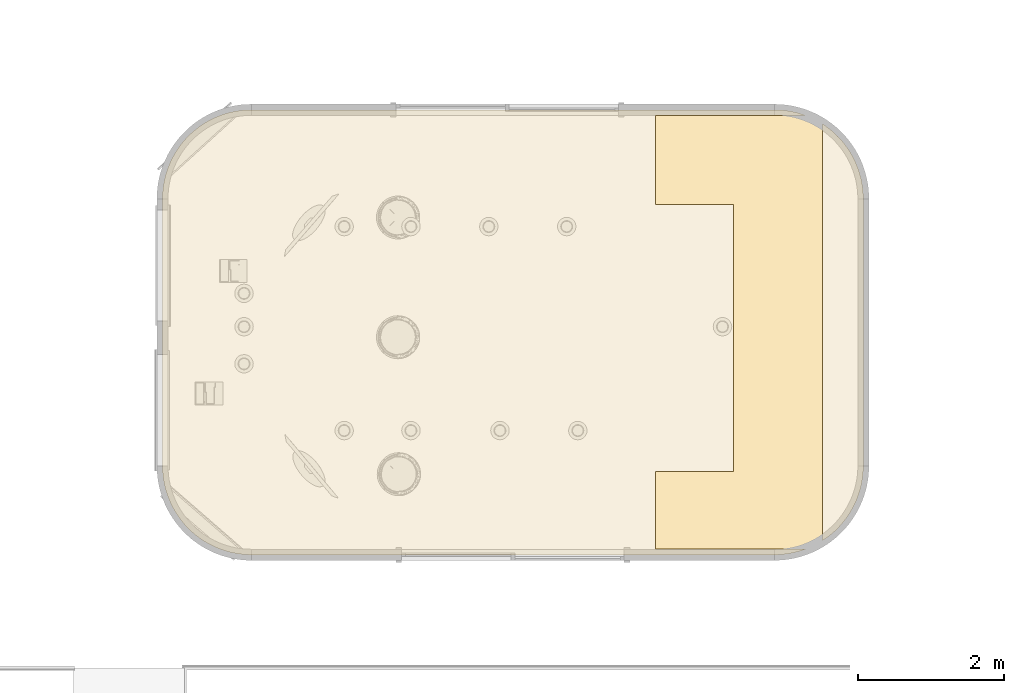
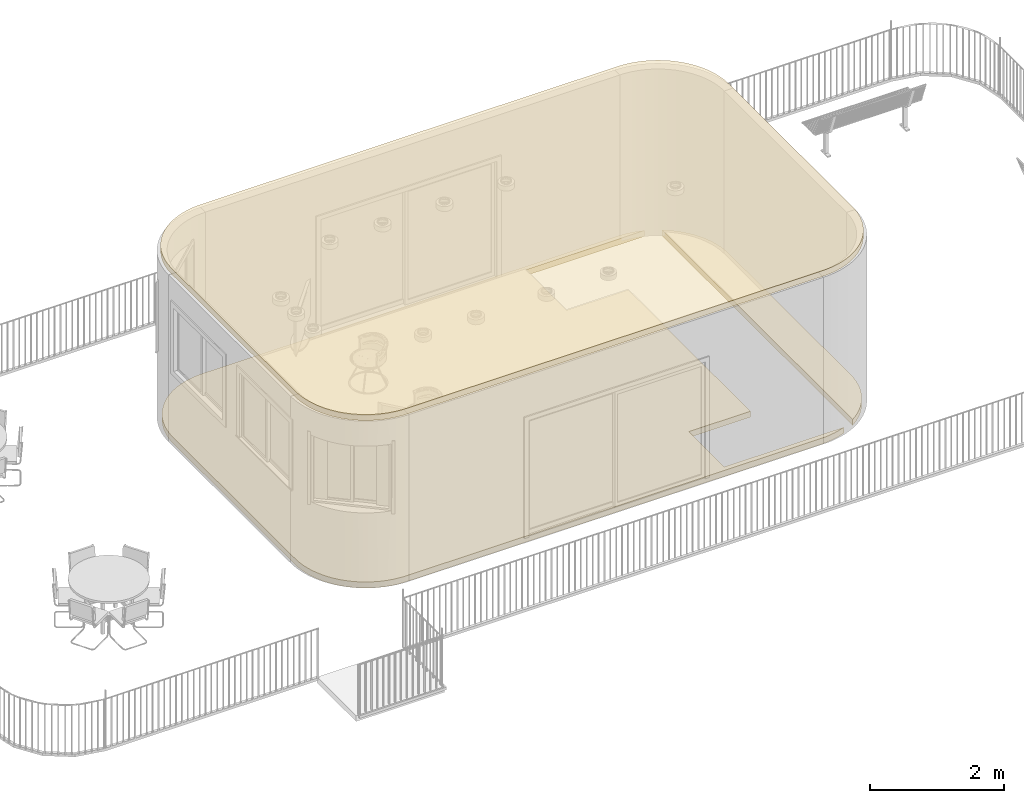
# One storey, part 2 of 8: 2 coverings.
"""IFC2X3 building model written with IfcOpenShell, lengths in feet."""

from ifc_helpers import new_model, entity, si_unit, converted_unit, derived_unit, direction, frame, frame_2d, origin, place, context, subcontext, project, spatial, polyline, circle_curve, parameter, trimmed, segment, composite_curve, outline, extrude, material, layer, layer_set, layer_usage, element, save


model = new_model("IFC2X3")

# Units and contexts
model_context = context("Model", 3, precision=0.0001, world=origin(), true_north=direction((6.12303176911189e-17, 1.0)))
body_context = subcontext(model_context, "Body", "Model", "MODEL_VIEW")
ifc_project = project(units=[converted_unit("LENGTHUNIT", "FOOT", entity("IfcRatioMeasure", 0.3048), si_unit("LENGTHUNIT", "METRE"), dimensions=[1, 0, 0, 0, 0, 0, 0]), converted_unit("AREAUNIT", "SQUARE FOOT", entity("IfcRatioMeasure", 0.09290304), si_unit("AREAUNIT", "SQUARE_METRE"), dimensions=[2, 0, 0, 0, 0, 0, 0]), converted_unit("VOLUMEUNIT", "CUBIC FOOT", entity("IfcRatioMeasure", 0.028316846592), si_unit("VOLUMEUNIT", "CUBIC_METRE"), dimensions=[3, 0, 0, 0, 0, 0, 0]), converted_unit("PLANEANGLEUNIT", "DEGREE", entity("IfcRatioMeasure", 0.0174532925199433), si_unit("PLANEANGLEUNIT", "RADIAN"), dimensions=[0, 0, 0, 0, 0, 0, 0]), si_unit("MASSUNIT", "GRAM", prefix="KILO"), derived_unit("MASSDENSITYUNIT", [(si_unit("MASSUNIT", "GRAM", prefix="KILO"), 1), (si_unit("LENGTHUNIT", "METRE"), -3)]), si_unit("TIMEUNIT", "SECOND"), si_unit("FREQUENCYUNIT", "HERTZ"), si_unit("THERMODYNAMICTEMPERATUREUNIT", "DEGREE_CELSIUS"), derived_unit("THERMALTRANSMITTANCEUNIT", [(si_unit("MASSUNIT", "GRAM", prefix="KILO"), 1), (si_unit("THERMODYNAMICTEMPERATUREUNIT", "KELVIN"), -1), (si_unit("TIMEUNIT", "SECOND"), -3)]), derived_unit("VOLUMETRICFLOWRATEUNIT", [(si_unit("LENGTHUNIT", "METRE"), 3), (si_unit("TIMEUNIT", "SECOND"), -1)]), si_unit("ELECTRICCURRENTUNIT", "AMPERE"), si_unit("ELECTRICVOLTAGEUNIT", "VOLT"), si_unit("POWERUNIT", "WATT"), si_unit("FORCEUNIT", "NEWTON"), si_unit("ILLUMINANCEUNIT", "LUX"), si_unit("LUMINOUSFLUXUNIT", "LUMEN"), si_unit("LUMINOUSINTENSITYUNIT", "CANDELA"), derived_unit("USERDEFINED", [(si_unit("MASSUNIT", "GRAM", prefix="KILO"), -1), (si_unit("LENGTHUNIT", "METRE"), -2), (si_unit("TIMEUNIT", "SECOND"), 3), (si_unit("LUMINOUSFLUXUNIT", "LUMEN"), 1)]), derived_unit("LINEARVELOCITYUNIT", [(si_unit("LENGTHUNIT", "METRE"), 1), (si_unit("TIMEUNIT", "SECOND"), -1)]), si_unit("PRESSUREUNIT", "PASCAL"), derived_unit("USERDEFINED", [(si_unit("LENGTHUNIT", "METRE"), -2), (si_unit("MASSUNIT", "GRAM", prefix="KILO"), 1), (si_unit("TIMEUNIT", "SECOND"), -2)])], contexts=[model_context])

# Site, building, storey
site_placement = place(None, origin())
site = spatial("IfcSite", under=ifc_project, at=site_placement, Name="表面", CompositionType="ELEMENT")
building_placement = place(site_placement, origin())
building = spatial("IfcBuilding", under=site, at=building_placement, CompositionType="ELEMENT")
storey_placement = place(building_placement, frame((0.0, 0.0, 20.0)))
storey = spatial("IfcBuildingStorey", under=building, at=storey_placement, Name="Sun Deck", CompositionType="ELEMENT", Elevation=19.9999999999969)

# Coverings
ifc_material_1 = material(Name="Metal - Stud Layer")
ifc_layer_1 = layer(ifc_material_1, 0.302083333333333)
ifc_material_2 = material(Name="Gypsum Wall Board")
ifc_layer_2 = layer(ifc_material_2, 0.0520833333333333)
ifc_layer_set = layer_set([ifc_layer_1, ifc_layer_2], Name="复合天花板:GWB on Mtl. Stud")
ifc_layer_usage_1 = layer_usage(ifc_layer_set, "AXIS3", "POSITIVE", 0.0)
covering_1_placement = place(storey_placement, origin())
element("IfcCovering", 1, at=covering_1_placement, inside=storey, material=ifc_layer_usage_1, Name="复合天花板:GWB on Mtl. Stud", ObjectType="复合天花板:GWB on Mtl. Stud", PredefinedType="CEILING", context=body_context, shape_type="SweptSolid", body=[
    extrude(outline(composite_curve([segment(trimmed(circle_curve(frame_2d((-3.08333333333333, 6.0), x_axis=(1.0, 0.0)), 4.0), [parameter(360.0)], [parameter(57.2028317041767)], True, "PARAMETER"), True, "CONTINUOUS"), segment(polyline([(-0.916666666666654, 9.36237350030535), (-0.916666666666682, -9.36237350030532)]), True, "CONTINUOUS"), segment(trimmed(circle_curve(frame_2d((-3.08333333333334, -6.0), x_axis=(1.0, 0.0)), 4.0), [parameter(302.797168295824)], [parameter(360.0)], True, "PARAMETER"), True, "CONTINUOUS"), segment(polyline([(0.916666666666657, -6.0), (0.916666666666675, 6.0)]), True, "CONTINUOUS")], self_intersect=False)), frame((16.6317535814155, 1.68239369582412, -0.166666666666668)), (0.0, 0.0, 1.0), 0.354166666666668),
    extrude(outline(composite_curve([segment(trimmed(circle_curve(frame_2d((-15.6151735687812, 6.05970122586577), x_axis=(1.0, 0.0)), 4.0), [parameter(89.9999999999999)], [parameter(180.0)], True, "PARAMETER"), True, "CONTINUOUS"), segment(polyline([(-19.6151735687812, 6.05970122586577), (-19.6151735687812, -5.94029877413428)]), True, "CONTINUOUS"), segment(trimmed(circle_curve(frame_2d((-15.6151735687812, -5.94029877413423), x_axis=(1.0, 0.0)), 4.0), [parameter(180.0)], [parameter(270.0)], True, "PARAMETER"), True, "CONTINUOUS"), segment(polyline([(-15.6151735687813, -9.94029877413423), (6.88482643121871, -9.94029877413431)]), True, "CONTINUOUS"), segment(polyline([(6.88482643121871, -9.94029877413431), (7.8848264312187, -9.94029877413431)]), True, "CONTINUOUS"), segment(trimmed(circle_curve(frame_2d((7.88482643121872, -5.94029877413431), x_axis=(1.0, 0.0)), 4.0), [parameter(269.999999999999)], [parameter(291.266658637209)], True, "PARAMETER"), True, "CONTINUOUS"), segment(polyline([(9.33566244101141, -9.66790858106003), (2.55149309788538, -9.66790858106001)]), True, "CONTINUOUS"), segment(polyline([(2.55149309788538, -9.66790858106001), (2.55149309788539, -6.19029877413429)]), True, "CONTINUOUS"), segment(polyline([(2.55149309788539, -6.19029877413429), (6.05149309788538, -6.19029877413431)]), True, "CONTINUOUS"), segment(polyline([(6.05149309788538, -6.19029877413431), (6.0514930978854, 5.8097012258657)]), True, "CONTINUOUS"), segment(polyline([(6.0514930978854, 5.8097012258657), (2.5514930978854, 5.8097012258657)]), True, "CONTINUOUS"), segment(polyline([(2.5514930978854, 5.8097012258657), (2.55149309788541, 9.8097012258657)]), True, "CONTINUOUS"), segment(polyline([(2.55149309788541, 9.8097012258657), (9.27676752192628, 9.80970122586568)]), True, "CONTINUOUS"), segment(trimmed(circle_curve(frame_2d((7.88482643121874, 6.05970122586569), x_axis=(1.0, 0.0)), 4.0), [parameter(69.6358651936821)], [parameter(89.9999999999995)], True, "PARAMETER"), True, "CONTINUOUS"), segment(polyline([(7.88482643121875, 10.0597012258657), (6.88482643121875, 10.0597012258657)]), True, "CONTINUOUS"), segment(polyline([(6.88482643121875, 10.0597012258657), (-15.6151735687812, 10.0597012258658)]), True, "CONTINUOUS")], self_intersect=False)), frame((5.66359381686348, 1.62269246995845, -0.166666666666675)), (0.0, 0.0, 1.0), 0.354166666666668),
])
ifc_layer_usage_2 = layer_usage(ifc_layer_set, "AXIS3", "POSITIVE", 0.0)
covering_2_placement = place(storey_placement, origin())
element("IfcCovering", 2, at=covering_2_placement, inside=storey, material=ifc_layer_usage_2, Name="复合天花板:GWB on Mtl. Stud", ObjectType="复合天花板:GWB on Mtl. Stud", PredefinedType="CEILING", context=body_context, shape_type="SweptSolid", body=[
    extrude(outline(composite_curve([segment(polyline([(-6.08333333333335, -15.7916666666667), (6.08333333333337, -15.7916666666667)]), True, "CONTINUOUS"), segment(trimmed(circle_curve(frame_2d((6.08333333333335, -11.7916666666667), x_axis=(0.0, 1.0)), 4.0), [parameter(180.0)], [parameter(269.999999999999)], True, "PARAMETER"), True, "CONTINUOUS"), segment(polyline([(10.0833333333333, -11.7916666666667), (10.0833333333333, 11.7916666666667)]), True, "CONTINUOUS"), segment(trimmed(circle_curve(frame_2d((6.08333333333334, 11.7916666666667), x_axis=(0.0, 1.0)), 4.0), [parameter(269.999999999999)], [parameter(360.0)], True, "PARAMETER"), True, "CONTINUOUS"), segment(polyline([(6.08333333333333, 15.7916666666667), (-6.08333333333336, 15.7916666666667)]), True, "CONTINUOUS"), segment(trimmed(circle_curve(frame_2d((-6.08333333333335, 11.7916666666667), x_axis=(0.0, 1.0)), 4.0), [parameter(360.0)], [parameter(89.9999999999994)], True, "PARAMETER"), True, "CONTINUOUS"), segment(polyline([(-10.0833333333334, 11.7916666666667), (-10.0833333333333, -11.7916666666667)]), True, "CONTINUOUS"), segment(trimmed(circle_curve(frame_2d((-6.08333333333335, -11.7916666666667), x_axis=(0.0, 1.0)), 4.0), [parameter(89.9999999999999)], [parameter(180.0)], True, "PARAMETER"), True, "CONTINUOUS")], self_intersect=False)), frame((1.75675358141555, 1.59906036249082, 10.0), z_axis=(0.0, 0.0, 1.0), x_axis=(0.0, -1.0, 0.0)), (0.0, 0.0, 1.0), 0.354166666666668),
])

save(model, "model.ifc")
